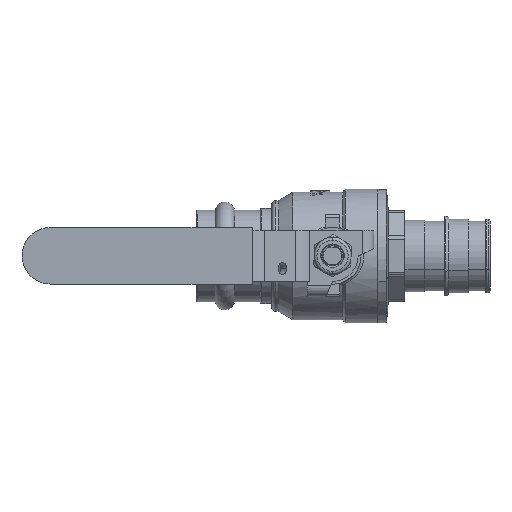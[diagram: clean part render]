
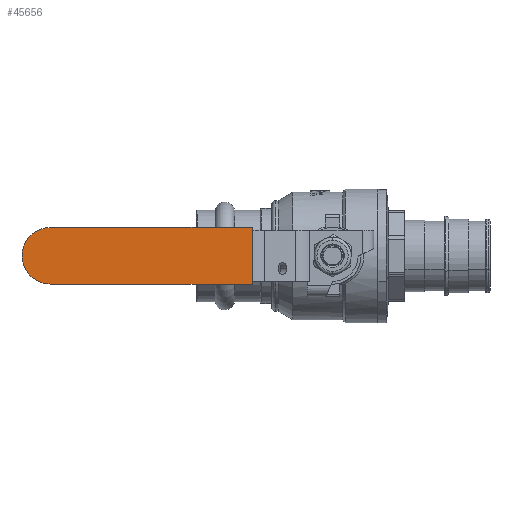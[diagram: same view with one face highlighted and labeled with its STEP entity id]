
A CAD part, top view. The second image highlights one B-rep face of the part: STEP entity #45656.
In plain terms, the highlighted planar face has unit normal (0, 0, 1).
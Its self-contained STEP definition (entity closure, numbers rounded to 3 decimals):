
#43093 = PLANE('',#43094);
#43094 = AXIS2_PLACEMENT_3D('',#43095,#43096,#43097);
#43095 = CARTESIAN_POINT('',(-28.314,-6.13,
    64.948));
#43096 = DIRECTION('',(-1.,0.,0.));
#43097 = DIRECTION('',(0.,-1.,0.));
#45426 = VERTEX_POINT('',#45427);
#45427 = CARTESIAN_POINT('',(-28.314,-26.13,
    64.948));
#45443 = PLANE('',#45444);
#45444 = AXIS2_PLACEMENT_3D('',#45445,#45446,#45447);
#45445 = CARTESIAN_POINT('',(0.,-26.13,
    45.948));
#45446 = DIRECTION('',(0.,1.,0.));
#45447 = DIRECTION('',(-1.,0.,0.));
#45484 = VERTEX_POINT('',#45485);
#45485 = CARTESIAN_POINT('',(-28.314,-6.13,
    64.948));
#45499 = PLANE('',#45500);
#45500 = AXIS2_PLACEMENT_3D('',#45501,#45502,#45503);
#45501 = CARTESIAN_POINT('',(0.,-6.13,
    45.948));
#45502 = DIRECTION('',(0.,1.,0.));
#45503 = DIRECTION('',(-1.,0.,0.));
#45511 = EDGE_CURVE('',#45484,#45426,#45512,.T.);
#45512 = SURFACE_CURVE('',#45513,(#45517,#45524),.PCURVE_S1.);
#45513 = LINE('',#45514,#45515);
#45514 = CARTESIAN_POINT('',(-28.314,-6.13,
    64.948));
#45515 = VECTOR('',#45516,1.);
#45516 = DIRECTION('',(0.,-1.,0.));
#45517 = PCURVE('',#43093,#45518);
#45518 = DEFINITIONAL_REPRESENTATION('',(#45519),#45523);
#45519 = LINE('',#45520,#45521);
#45520 = CARTESIAN_POINT('',(-0.,0.));
#45521 = VECTOR('',#45522,1.);
#45522 = DIRECTION('',(1.,0.));
#45523 = ( GEOMETRIC_REPRESENTATION_CONTEXT(2) 
PARAMETRIC_REPRESENTATION_CONTEXT() REPRESENTATION_CONTEXT('2D SPACE',''
  ) );
#45524 = PCURVE('',#45525,#45530);
#45525 = PLANE('',#45526);
#45526 = AXIS2_PLACEMENT_3D('',#45527,#45528,#45529);
#45527 = CARTESIAN_POINT('',(-28.314,-6.13,
    64.948));
#45528 = DIRECTION('',(0.,0.,-1.));
#45529 = DIRECTION('',(0.,-1.,0.));
#45530 = DEFINITIONAL_REPRESENTATION('',(#45531),#45535);
#45531 = LINE('',#45532,#45533);
#45532 = CARTESIAN_POINT('',(-0.,0.));
#45533 = VECTOR('',#45534,1.);
#45534 = DIRECTION('',(1.,0.));
#45535 = ( GEOMETRIC_REPRESENTATION_CONTEXT(2) 
PARAMETRIC_REPRESENTATION_CONTEXT() REPRESENTATION_CONTEXT('2D SPACE',''
  ) );
#45590 = CYLINDRICAL_SURFACE('',#45591,10.);
#45591 = AXIS2_PLACEMENT_3D('',#45592,#45593,#45594);
#45592 = CARTESIAN_POINT('',(-99.5,-16.13,64.948));
#45593 = DIRECTION('',(0.,0.,1.));
#45594 = DIRECTION('',(0.,1.,0.));
#45623 = CYLINDRICAL_SURFACE('',#45624,10.);
#45624 = AXIS2_PLACEMENT_3D('',#45625,#45626,#45627);
#45625 = CARTESIAN_POINT('',(-99.5,-16.13,45.948));
#45626 = DIRECTION('',(0.,0.,-1.));
#45627 = DIRECTION('',(0.,-1.,0.));
#45656 = ADVANCED_FACE('',(#45657),#45525,.F.);
#45657 = FACE_BOUND('',#45658,.T.);
#45658 = EDGE_LOOP('',(#45659,#45689,#45717,#45738,#45739));
#45659 = ORIENTED_EDGE('',*,*,#45660,.T.);
#45660 = EDGE_CURVE('',#45661,#45663,#45665,.T.);
#45661 = VERTEX_POINT('',#45662);
#45662 = CARTESIAN_POINT('',(-99.5,-6.13,64.948));
#45663 = VERTEX_POINT('',#45664);
#45664 = CARTESIAN_POINT('',(-109.5,-16.13,64.948));
#45665 = SURFACE_CURVE('',#45666,(#45671,#45682),.PCURVE_S1.);
#45666 = CIRCLE('',#45667,10.);
#45667 = AXIS2_PLACEMENT_3D('',#45668,#45669,#45670);
#45668 = CARTESIAN_POINT('',(-99.5,-16.13,64.948));
#45669 = DIRECTION('',(0.,0.,1.));
#45670 = DIRECTION('',(0.,-1.,0.));
#45671 = PCURVE('',#45525,#45672);
#45672 = DEFINITIONAL_REPRESENTATION('',(#45673),#45681);
#45673 = ( BOUNDED_CURVE() B_SPLINE_CURVE(2,(#45674,#45675,#45676,#45677
    ,#45678,#45679,#45680),.UNSPECIFIED.,.T.,.F.) 
B_SPLINE_CURVE_WITH_KNOTS((1,2,2,2,2,1),(-2.094,0.,
    2.094,4.189,6.283,8.378),
.UNSPECIFIED.) CURVE() GEOMETRIC_REPRESENTATION_ITEM() 
RATIONAL_B_SPLINE_CURVE((1.,0.5,1.,0.5,1.,0.5,1.)) REPRESENTATION_ITEM(
  '') );
#45674 = CARTESIAN_POINT('',(20.,71.186));
#45675 = CARTESIAN_POINT('',(20.,53.866));
#45676 = CARTESIAN_POINT('',(5.,62.526));
#45677 = CARTESIAN_POINT('',(-10.,71.186));
#45678 = CARTESIAN_POINT('',(5.,79.847));
#45679 = CARTESIAN_POINT('',(20.,88.507));
#45680 = CARTESIAN_POINT('',(20.,71.186));
#45681 = ( GEOMETRIC_REPRESENTATION_CONTEXT(2) 
PARAMETRIC_REPRESENTATION_CONTEXT() REPRESENTATION_CONTEXT('2D SPACE',''
  ) );
#45682 = PCURVE('',#45623,#45683);
#45683 = DEFINITIONAL_REPRESENTATION('',(#45684),#45688);
#45684 = LINE('',#45685,#45686);
#45685 = CARTESIAN_POINT('',(6.283,-19.));
#45686 = VECTOR('',#45687,1.);
#45687 = DIRECTION('',(-1.,0.));
#45688 = ( GEOMETRIC_REPRESENTATION_CONTEXT(2) 
PARAMETRIC_REPRESENTATION_CONTEXT() REPRESENTATION_CONTEXT('2D SPACE',''
  ) );
#45689 = ORIENTED_EDGE('',*,*,#45690,.T.);
#45690 = EDGE_CURVE('',#45663,#45691,#45693,.T.);
#45691 = VERTEX_POINT('',#45692);
#45692 = CARTESIAN_POINT('',(-99.5,-26.13,64.948));
#45693 = SURFACE_CURVE('',#45694,(#45699,#45710),.PCURVE_S1.);
#45694 = CIRCLE('',#45695,10.);
#45695 = AXIS2_PLACEMENT_3D('',#45696,#45697,#45698);
#45696 = CARTESIAN_POINT('',(-99.5,-16.13,64.948));
#45697 = DIRECTION('',(0.,0.,1.));
#45698 = DIRECTION('',(0.,-1.,0.));
#45699 = PCURVE('',#45525,#45700);
#45700 = DEFINITIONAL_REPRESENTATION('',(#45701),#45709);
#45701 = ( BOUNDED_CURVE() B_SPLINE_CURVE(2,(#45702,#45703,#45704,#45705
    ,#45706,#45707,#45708),.UNSPECIFIED.,.T.,.F.) 
B_SPLINE_CURVE_WITH_KNOTS((1,2,2,2,2,1),(-2.094,0.,
    2.094,4.189,6.283,8.378),
.UNSPECIFIED.) CURVE() GEOMETRIC_REPRESENTATION_ITEM() 
RATIONAL_B_SPLINE_CURVE((1.,0.5,1.,0.5,1.,0.5,1.)) REPRESENTATION_ITEM(
  '') );
#45702 = CARTESIAN_POINT('',(20.,71.186));
#45703 = CARTESIAN_POINT('',(20.,53.866));
#45704 = CARTESIAN_POINT('',(5.,62.526));
#45705 = CARTESIAN_POINT('',(-10.,71.186));
#45706 = CARTESIAN_POINT('',(5.,79.847));
#45707 = CARTESIAN_POINT('',(20.,88.507));
#45708 = CARTESIAN_POINT('',(20.,71.186));
#45709 = ( GEOMETRIC_REPRESENTATION_CONTEXT(2) 
PARAMETRIC_REPRESENTATION_CONTEXT() REPRESENTATION_CONTEXT('2D SPACE',''
  ) );
#45710 = PCURVE('',#45590,#45711);
#45711 = DEFINITIONAL_REPRESENTATION('',(#45712),#45716);
#45712 = LINE('',#45713,#45714);
#45713 = CARTESIAN_POINT('',(-3.142,0.));
#45714 = VECTOR('',#45715,1.);
#45715 = DIRECTION('',(1.,0.));
#45716 = ( GEOMETRIC_REPRESENTATION_CONTEXT(2) 
PARAMETRIC_REPRESENTATION_CONTEXT() REPRESENTATION_CONTEXT('2D SPACE',''
  ) );
#45717 = ORIENTED_EDGE('',*,*,#45718,.T.);
#45718 = EDGE_CURVE('',#45691,#45426,#45719,.T.);
#45719 = SURFACE_CURVE('',#45720,(#45724,#45731),.PCURVE_S1.);
#45720 = LINE('',#45721,#45722);
#45721 = CARTESIAN_POINT('',(-28.314,-26.13,
    64.948));
#45722 = VECTOR('',#45723,1.);
#45723 = DIRECTION('',(1.,0.,0.));
#45724 = PCURVE('',#45525,#45725);
#45725 = DEFINITIONAL_REPRESENTATION('',(#45726),#45730);
#45726 = LINE('',#45727,#45728);
#45727 = CARTESIAN_POINT('',(20.,0.));
#45728 = VECTOR('',#45729,1.);
#45729 = DIRECTION('',(0.,-1.));
#45730 = ( GEOMETRIC_REPRESENTATION_CONTEXT(2) 
PARAMETRIC_REPRESENTATION_CONTEXT() REPRESENTATION_CONTEXT('2D SPACE',''
  ) );
#45731 = PCURVE('',#45443,#45732);
#45732 = DEFINITIONAL_REPRESENTATION('',(#45733),#45737);
#45733 = LINE('',#45734,#45735);
#45734 = CARTESIAN_POINT('',(28.314,19.));
#45735 = VECTOR('',#45736,1.);
#45736 = DIRECTION('',(-1.,0.));
#45737 = ( GEOMETRIC_REPRESENTATION_CONTEXT(2) 
PARAMETRIC_REPRESENTATION_CONTEXT() REPRESENTATION_CONTEXT('2D SPACE',''
  ) );
#45738 = ORIENTED_EDGE('',*,*,#45511,.F.);
#45739 = ORIENTED_EDGE('',*,*,#45740,.F.);
#45740 = EDGE_CURVE('',#45661,#45484,#45741,.T.);
#45741 = SURFACE_CURVE('',#45742,(#45746,#45753),.PCURVE_S1.);
#45742 = LINE('',#45743,#45744);
#45743 = CARTESIAN_POINT('',(-28.314,-6.13,
    64.948));
#45744 = VECTOR('',#45745,1.);
#45745 = DIRECTION('',(1.,0.,0.));
#45746 = PCURVE('',#45525,#45747);
#45747 = DEFINITIONAL_REPRESENTATION('',(#45748),#45752);
#45748 = LINE('',#45749,#45750);
#45749 = CARTESIAN_POINT('',(-0.,0.));
#45750 = VECTOR('',#45751,1.);
#45751 = DIRECTION('',(0.,-1.));
#45752 = ( GEOMETRIC_REPRESENTATION_CONTEXT(2) 
PARAMETRIC_REPRESENTATION_CONTEXT() REPRESENTATION_CONTEXT('2D SPACE',''
  ) );
#45753 = PCURVE('',#45499,#45754);
#45754 = DEFINITIONAL_REPRESENTATION('',(#45755),#45759);
#45755 = LINE('',#45756,#45757);
#45756 = CARTESIAN_POINT('',(28.314,19.));
#45757 = VECTOR('',#45758,1.);
#45758 = DIRECTION('',(-1.,0.));
#45759 = ( GEOMETRIC_REPRESENTATION_CONTEXT(2) 
PARAMETRIC_REPRESENTATION_CONTEXT() REPRESENTATION_CONTEXT('2D SPACE',''
  ) );
